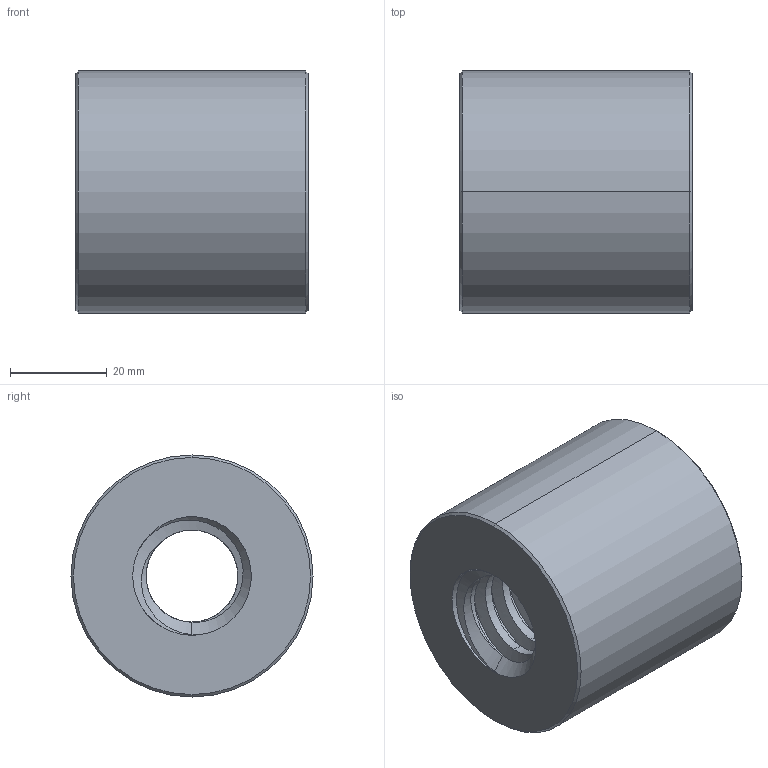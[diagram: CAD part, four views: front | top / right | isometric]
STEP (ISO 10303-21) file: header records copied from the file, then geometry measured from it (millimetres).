
FILE_DESCRIPTION((''),'2;1');
FILE_NAME('711-024-6000_PRT','2024-03-23T',('Brieden'),('ib-brieden'),'PRO/ENGINEER BY PARAMETRIC TECHNOLOGY CORPORATION, 2010160','PRO/ENGINEER BY PARAMETRIC TECHNOLOGY CORPORATION, 2010160','');
FILE_SCHEMA(('AUTOMOTIVE_DESIGN { 1 0 10303 214 1 1 1 1 }'));
Length unit declared in the file: millimetre
Products named in the file (1): 711-024-6000_PRT
Bounding box: 48 x 50 x 50 mm (x, y, z)
Volume: 76034.8 mm3; surface area: 16428.3 mm2
Topology: 1 solids, 1 shells, 37 faces, 93 edges, 58 vertices
Faces by surface type: cylinder 18, bspline 9, cone 8, plane 2
Entity records: 5102 total; most frequent: CARTESIAN_POINT 4272, ORIENTED_EDGE 186, DIRECTION 111, EDGE_CURVE 93, VERTEX_POINT 58, B_SPLINE_CURVE_WITH_KNOTS 51, AXIS2_PLACEMENT_3D 41, EDGE_LOOP 39
